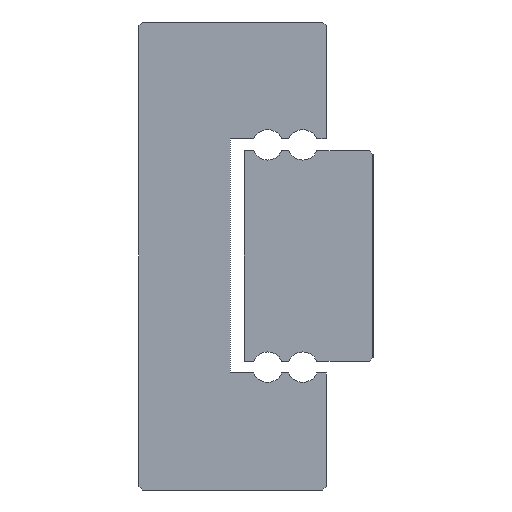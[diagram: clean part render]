
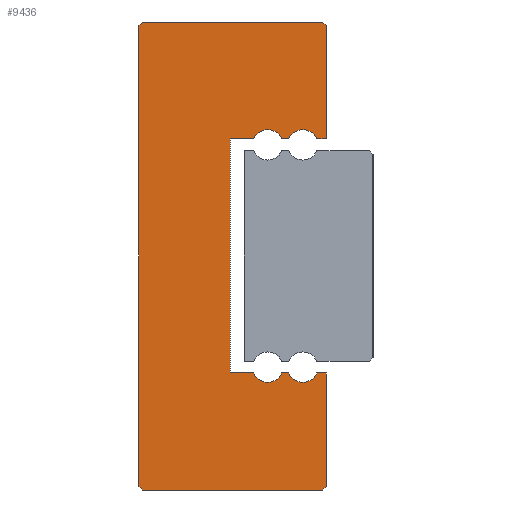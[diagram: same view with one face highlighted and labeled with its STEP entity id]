
A CAD part, left-side view. The second image highlights one B-rep face of the part: STEP entity #9436.
In plain terms, the highlighted planar face has unit normal (-1, 0, 0).
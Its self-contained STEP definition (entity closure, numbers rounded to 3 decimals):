
#77=LINE('',#14428,#893);
#215=LINE('',#15201,#1031);
#218=LINE('',#15207,#1034);
#221=LINE('',#15213,#1037);
#225=LINE('',#15225,#1041);
#229=LINE('',#15237,#1045);
#232=LINE('',#15243,#1048);
#235=LINE('',#15249,#1051);
#239=LINE('',#15261,#1055);
#243=LINE('',#15273,#1059);
#246=LINE('',#15279,#1062);
#249=LINE('',#15285,#1065);
#252=LINE('',#15291,#1068);
#255=LINE('',#15297,#1071);
#258=LINE('',#15319,#1074);
#261=LINE('',#15325,#1077);
#893=VECTOR('',#11265,1000.);
#1031=VECTOR('',#11901,1000.);
#1034=VECTOR('',#11906,1000.);
#1037=VECTOR('',#11911,1000.);
#1041=VECTOR('',#11923,1000.);
#1045=VECTOR('',#11935,1000.);
#1048=VECTOR('',#11940,1000.);
#1051=VECTOR('',#11945,1000.);
#1055=VECTOR('',#11957,1000.);
#1059=VECTOR('',#11969,1000.);
#1062=VECTOR('',#11974,1000.);
#1065=VECTOR('',#11979,1000.);
#1068=VECTOR('',#11984,1000.);
#1071=VECTOR('',#11989,1000.);
#1074=VECTOR('',#12010,1000.);
#1077=VECTOR('',#12015,1000.);
#1706=PLANE('',#10286);
#2488=ORIENTED_EDGE('',*,*,#4849,.F.);
#2489=ORIENTED_EDGE('',*,*,#5297,.F.);
#2490=ORIENTED_EDGE('',*,*,#5294,.F.);
#2491=ORIENTED_EDGE('',*,*,#5283,.F.);
#2492=ORIENTED_EDGE('',*,*,#5280,.F.);
#2493=ORIENTED_EDGE('',*,*,#5277,.F.);
#2494=ORIENTED_EDGE('',*,*,#5274,.F.);
#2495=ORIENTED_EDGE('',*,*,#5271,.F.);
#2496=ORIENTED_EDGE('',*,*,#5268,.T.);
#2497=ORIENTED_EDGE('',*,*,#5265,.F.);
#2498=ORIENTED_EDGE('',*,*,#5262,.T.);
#2499=ORIENTED_EDGE('',*,*,#5259,.F.);
#2500=ORIENTED_EDGE('',*,*,#5256,.F.);
#2501=ORIENTED_EDGE('',*,*,#5253,.F.);
#2502=ORIENTED_EDGE('',*,*,#5250,.T.);
#2503=ORIENTED_EDGE('',*,*,#5247,.F.);
#2504=ORIENTED_EDGE('',*,*,#5244,.T.);
#2505=ORIENTED_EDGE('',*,*,#5241,.F.);
#2506=ORIENTED_EDGE('',*,*,#5238,.F.);
#2507=ORIENTED_EDGE('',*,*,#5235,.F.);
#4849=EDGE_CURVE('',#6289,#6290,#77,.T.);
#5235=EDGE_CURVE('',#6290,#6675,#215,.T.);
#5238=EDGE_CURVE('',#6675,#6677,#218,.T.);
#5241=EDGE_CURVE('',#6677,#6679,#221,.T.);
#5244=EDGE_CURVE('',#6681,#6679,#7498,.T.);
#5247=EDGE_CURVE('',#6681,#6683,#225,.T.);
#5250=EDGE_CURVE('',#6685,#6683,#7500,.T.);
#5253=EDGE_CURVE('',#6685,#6687,#229,.T.);
#5256=EDGE_CURVE('',#6687,#6689,#232,.T.);
#5259=EDGE_CURVE('',#6689,#6691,#235,.T.);
#5262=EDGE_CURVE('',#6693,#6691,#7502,.T.);
#5265=EDGE_CURVE('',#6693,#6695,#239,.T.);
#5268=EDGE_CURVE('',#6697,#6695,#7504,.T.);
#5271=EDGE_CURVE('',#6697,#6699,#243,.T.);
#5274=EDGE_CURVE('',#6699,#6701,#246,.T.);
#5277=EDGE_CURVE('',#6701,#6703,#249,.T.);
#5280=EDGE_CURVE('',#6703,#6705,#252,.T.);
#5283=EDGE_CURVE('',#6705,#6707,#255,.T.);
#5294=EDGE_CURVE('',#6707,#6717,#258,.T.);
#5297=EDGE_CURVE('',#6717,#6289,#261,.T.);
#6289=VERTEX_POINT('',#14429);
#6290=VERTEX_POINT('',#14430);
#6675=VERTEX_POINT('',#15202);
#6677=VERTEX_POINT('',#15208);
#6679=VERTEX_POINT('',#15214);
#6681=VERTEX_POINT('',#15220);
#6683=VERTEX_POINT('',#15226);
#6685=VERTEX_POINT('',#15232);
#6687=VERTEX_POINT('',#15238);
#6689=VERTEX_POINT('',#15244);
#6691=VERTEX_POINT('',#15250);
#6693=VERTEX_POINT('',#15256);
#6695=VERTEX_POINT('',#15262);
#6697=VERTEX_POINT('',#15268);
#6699=VERTEX_POINT('',#15274);
#6701=VERTEX_POINT('',#15280);
#6703=VERTEX_POINT('',#15286);
#6705=VERTEX_POINT('',#15292);
#6707=VERTEX_POINT('',#15298);
#6717=VERTEX_POINT('',#15320);
#7498=CIRCLE('',#10254,0.65);
#7500=CIRCLE('',#10258,0.65);
#7502=CIRCLE('',#10264,0.65);
#7504=CIRCLE('',#10268,0.65);
#7958=EDGE_LOOP('',(#2488,#2489,#2490,#2491,#2492,#2493,#2494,#2495,#2496,
#2497,#2498,#2499,#2500,#2501,#2502,#2503,#2504,#2505,#2506,#2507));
#8563=FACE_BOUND('',#7958,.T.);
#9436=ADVANCED_FACE('',(#8563),#1706,.F.);
#10254=AXIS2_PLACEMENT_3D('',#15219,#11916,#11917);
#10258=AXIS2_PLACEMENT_3D('',#15231,#11928,#11929);
#10264=AXIS2_PLACEMENT_3D('',#15255,#11950,#11951);
#10268=AXIS2_PLACEMENT_3D('',#15267,#11962,#11963);
#10286=AXIS2_PLACEMENT_3D('',#15328,#12019,#12020);
#11265=DIRECTION('',(0.,-1.,0.));
#11901=DIRECTION('',(0.,-0.707,-0.707));
#11906=DIRECTION('',(0.,0.,-1.));
#11911=DIRECTION('',(0.,1.,0.));
#11916=DIRECTION('',(1.,0.,0.));
#11917=DIRECTION('',(0.,0.,-1.));
#11923=DIRECTION('',(0.,1.,0.));
#11928=DIRECTION('',(1.,0.,0.));
#11929=DIRECTION('',(0.,0.,-1.));
#11935=DIRECTION('',(0.,1.,0.));
#11940=DIRECTION('',(0.,0.,-1.));
#11945=DIRECTION('',(0.,-1.,0.));
#11950=DIRECTION('',(1.,0.,0.));
#11951=DIRECTION('',(0.,0.,-1.));
#11957=DIRECTION('',(0.,-1.,0.));
#11962=DIRECTION('',(1.,0.,0.));
#11963=DIRECTION('',(0.,0.,-1.));
#11969=DIRECTION('',(0.,-1.,0.));
#11974=DIRECTION('',(0.,0.,-1.));
#11979=DIRECTION('',(0.,0.707,-0.707));
#11984=DIRECTION('',(0.,1.,0.));
#11989=DIRECTION('',(0.,0.707,0.707));
#12010=DIRECTION('',(0.,0.,1.));
#12015=DIRECTION('',(0.,-0.707,0.707));
#12019=DIRECTION('',(1.,0.,0.));
#12020=DIRECTION('',(0.,0.,-1.));
#14428=CARTESIAN_POINT('',(-25.,7.85,10.));
#14429=CARTESIAN_POINT('',(-25.,7.85,10.));
#14430=CARTESIAN_POINT('',(-25.,0.15,10.));
#15201=CARTESIAN_POINT('',(-25.,0.15,10.));
#15202=CARTESIAN_POINT('',(-25.,0.,9.85));
#15207=CARTESIAN_POINT('',(-25.,0.,9.85));
#15208=CARTESIAN_POINT('',(-25.,0.,5.));
#15213=CARTESIAN_POINT('',(-25.,0.,5.));
#15214=CARTESIAN_POINT('',(-25.,0.4,5.));
#15219=CARTESIAN_POINT('',(-25.,1.,4.75));
#15220=CARTESIAN_POINT('',(-25.,1.6,5.));
#15225=CARTESIAN_POINT('',(-25.,1.6,5.));
#15226=CARTESIAN_POINT('',(-25.,1.9,5.));
#15231=CARTESIAN_POINT('',(-25.,2.5,4.75));
#15232=CARTESIAN_POINT('',(-25.,3.1,5.));
#15237=CARTESIAN_POINT('',(-25.,3.1,5.));
#15238=CARTESIAN_POINT('',(-25.,4.1,5.));
#15243=CARTESIAN_POINT('',(-25.,4.1,5.));
#15244=CARTESIAN_POINT('',(-25.,4.1,-5.));
#15249=CARTESIAN_POINT('',(-25.,4.1,-5.));
#15250=CARTESIAN_POINT('',(-25.,3.1,-5.));
#15255=CARTESIAN_POINT('',(-25.,2.5,-4.75));
#15256=CARTESIAN_POINT('',(-25.,1.9,-5.));
#15261=CARTESIAN_POINT('',(-25.,1.9,-5.));
#15262=CARTESIAN_POINT('',(-25.,1.6,-5.));
#15267=CARTESIAN_POINT('',(-25.,1.,-4.75));
#15268=CARTESIAN_POINT('',(-25.,0.4,-5.));
#15273=CARTESIAN_POINT('',(-25.,0.4,-5.));
#15274=CARTESIAN_POINT('',(-25.,0.,-5.));
#15279=CARTESIAN_POINT('',(-25.,0.,-5.));
#15280=CARTESIAN_POINT('',(-25.,0.,-9.85));
#15285=CARTESIAN_POINT('',(-25.,0.,-9.85));
#15286=CARTESIAN_POINT('',(-25.,0.15,-10.));
#15291=CARTESIAN_POINT('',(-25.,0.15,-10.));
#15292=CARTESIAN_POINT('',(-25.,7.85,-10.));
#15297=CARTESIAN_POINT('',(-25.,7.85,-10.));
#15298=CARTESIAN_POINT('',(-25.,8.,-9.85));
#15319=CARTESIAN_POINT('',(-25.,8.,-9.85));
#15320=CARTESIAN_POINT('',(-25.,8.,9.85));
#15325=CARTESIAN_POINT('',(-25.,8.,9.85));
#15328=CARTESIAN_POINT('',(-25.,1.,4.75));
